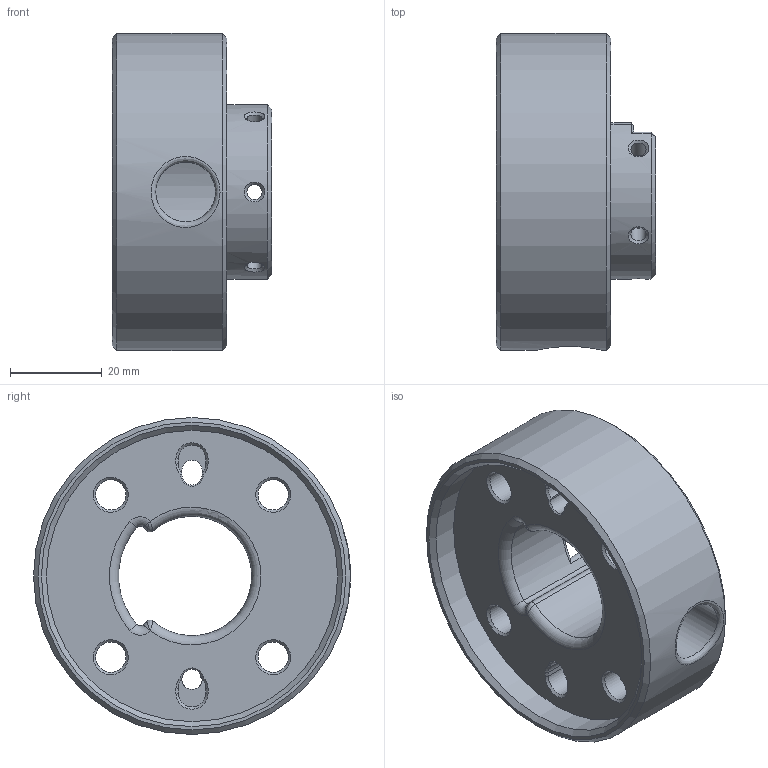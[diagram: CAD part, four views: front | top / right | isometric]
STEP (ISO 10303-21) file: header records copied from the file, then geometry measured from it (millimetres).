
FILE_DESCRIPTION (( 'STEP AP203' ), '1' );
FILE_NAME ('230100169901_O12蛌諉楊擘-FX.STEP', '2026-05-21T03:18:52', ( '' ), ( '' ), 'SwSTEP 2.0', 'SolidWorks 2022', '' );
FILE_SCHEMA (( 'CONFIG_CONTROL_DESIGN' ));
Length unit declared in the file: millimetre
Products named in the file (1): 230100169901_O12转接法兰-FX
Bounding box: 34.8 x 69 x 69 mm (x, y, z)
Volume: 57381.7 mm3; surface area: 18806.1 mm2
Topology: 1 solids, 1 shells, 123 faces, 313 edges, 193 vertices
Faces by surface type: cylinder 42, cone 37, plane 35, torus 5, bspline 4
Full cylindrical faces by diameter (mm): 3.3 x5, 4.4 x1, 6.6 x4, 11 x4, 13 x1, 63.4 x1, 69 x1
Entity records: 5054 total; most frequent: CARTESIAN_POINT 2248, DIRECTION 569, ORIENTED_EDGE 520, EDGE_CURVE 260, AXIS2_PLACEMENT_3D 233, EDGE_LOOP 184, VERTEX_POINT 176, FACE_OUTER_BOUND 141
